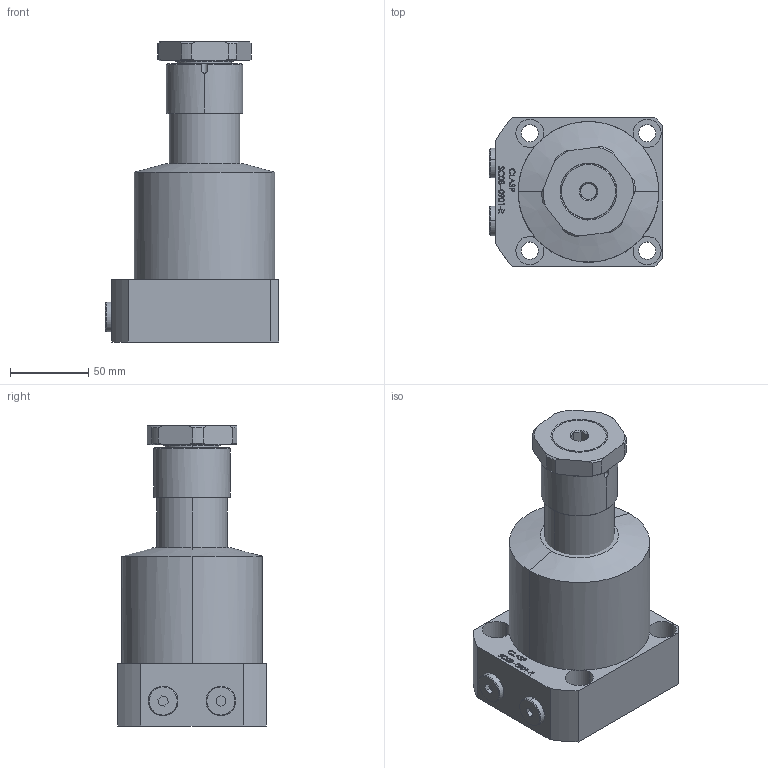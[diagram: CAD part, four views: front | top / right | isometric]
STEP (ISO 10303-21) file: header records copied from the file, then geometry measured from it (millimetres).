
FILE_DESCRIPTION (( 'STEP AP203' ), '1' );
FILE_NAME ('SC08-0901-R.STEP', '2022-07-08T17:21:29', ( '' ), ( '' ), 'SwSTEP 2.0', 'SolidWorks 2017', '' );
FILE_SCHEMA (( 'CONFIG_CONTROL_DESIGN' ));
Length unit declared in the file: millimetre
Products named in the file (6): SC-08-0901-Piston; sc-08-0901-05 plug; sc-08-0901-04 sleeve; sc-08-0901-03-nut; SC08-0901-R; SC-08-0901-L BODY
Assembly tree (6 placements, depth 2):
  SC08-0901-R
    SC-08-0901-L BODY
    SC-08-0901-Piston
    sc-08-0901-05 plug  x2
    sc-08-0901-04 sleeve
    sc-08-0901-03-nut
Bounding box: 111 x 95 x 192 mm (x, y, z)
Volume: 994800.8 mm3; surface area: 98300.8 mm2
Topology: 6 solids, 6 shells, 383 faces, 955 edges, 623 vertices
Faces by surface type: plane 164, bspline 112, cylinder 64, cone 41, sphere 2
Entity records: 18326 total; most frequent: CARTESIAN_POINT 9537, ORIENTED_EDGE 1842, DIRECTION 1362, EDGE_CURVE 921, VERTEX_POINT 602, LINE 468, VECTOR 468, AXIS2_PLACEMENT_3D 447
